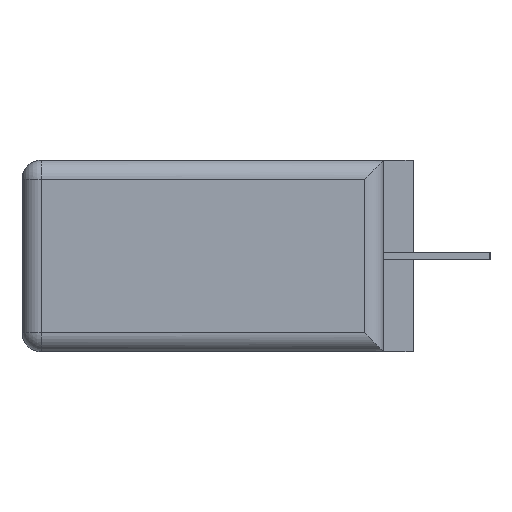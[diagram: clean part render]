
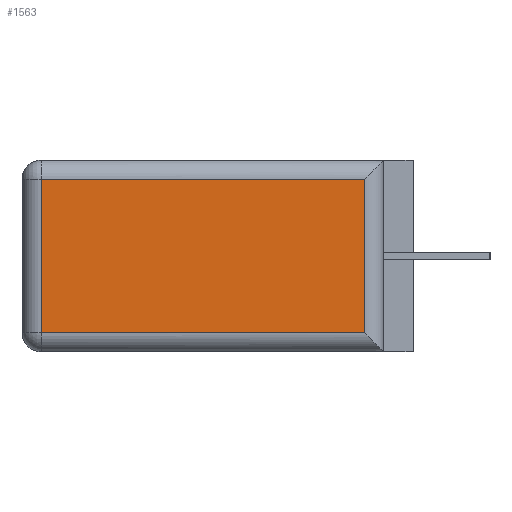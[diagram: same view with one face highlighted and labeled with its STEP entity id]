
A CAD part, left-side view. The second image highlights one B-rep face of the part: STEP entity #1563.
In plain terms, the highlighted planar face has unit normal (-1, 0, 0).
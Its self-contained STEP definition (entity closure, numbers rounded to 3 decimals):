
#1524 = CARTESIAN_POINT ( 'NONE',  ( -9.845, 4.83, -0.995 ) ) ;
#1525 = VERTEX_POINT ( 'NONE', #1524 ) ;
#1526 = CARTESIAN_POINT ( 'NONE',  ( -9.845, 0.631, -0.995 ) ) ;
#1527 = VERTEX_POINT ( 'NONE', #1526 ) ;
#1528 = CARTESIAN_POINT ( 'NONE',  ( -9.845, 0.381, -0.995 ) ) ;
#1529 = DIRECTION ( 'NONE',  ( 0., -1., 0. ) ) ;
#1530 = VECTOR ( 'NONE', #1529, 1000. ) ;
#1531 = LINE ( 'NONE', #1528, #1530 ) ;
#1532 = EDGE_CURVE ( 'NONE', #1525, #1527, #1531, .T. ) ;
#1533 = ORIENTED_EDGE ( 'NONE', *, *, #1532, .T. ) ;
#1534 = CARTESIAN_POINT ( 'NONE',  ( -9.845, 0.631, 0.995 ) ) ;
#1535 = VERTEX_POINT ( 'NONE', #1534 ) ;
#1536 = CARTESIAN_POINT ( 'NONE',  ( -9.845, 0.631, -1.245 ) ) ;
#1537 = DIRECTION ( 'NONE',  ( 0., 0., 1. ) ) ;
#1538 = VECTOR ( 'NONE', #1537, 1000. ) ;
#1539 = LINE ( 'NONE', #1536, #1538 ) ;
#1540 = EDGE_CURVE ( 'NONE', #1527, #1535, #1539, .T. ) ;
#1541 = ORIENTED_EDGE ( 'NONE', *, *, #1540, .T. ) ;
#1542 = CARTESIAN_POINT ( 'NONE',  ( -9.845, 4.83, 0.995 ) ) ;
#1543 = VERTEX_POINT ( 'NONE', #1542 ) ;
#1544 = CARTESIAN_POINT ( 'NONE',  ( -9.845, 5.08, 0.995 ) ) ;
#1545 = DIRECTION ( 'NONE',  ( 0., 1., 0. ) ) ;
#1546 = VECTOR ( 'NONE', #1545, 1000. ) ;
#1547 = LINE ( 'NONE', #1544, #1546 ) ;
#1548 = EDGE_CURVE ( 'NONE', #1535, #1543, #1547, .T. ) ;
#1549 = ORIENTED_EDGE ( 'NONE', *, *, #1548, .T. ) ;
#1550 = CARTESIAN_POINT ( 'NONE',  ( -9.845, 4.83, -1.245 ) ) ;
#1551 = DIRECTION ( 'NONE',  ( 0., 0., -1. ) ) ;
#1552 = VECTOR ( 'NONE', #1551, 1000. ) ;
#1553 = LINE ( 'NONE', #1550, #1552 ) ;
#1554 = EDGE_CURVE ( 'NONE', #1543, #1525, #1553, .T. ) ;
#1555 = ORIENTED_EDGE ( 'NONE', *, *, #1554, .T. ) ;
#1556 = EDGE_LOOP ( 'NONE', ( #1533, #1541, #1549, #1555 ) ) ;
#1557 = FACE_OUTER_BOUND ( 'NONE', #1556, .T. ) ;
#1558 = CARTESIAN_POINT ( 'NONE',  ( -9.845, 5.08, -1.245 ) ) ;
#1559 = DIRECTION ( 'NONE',  ( 1., 0., 0. ) ) ;
#1560 = DIRECTION ( 'NONE',  ( 0., 0., -1. ) ) ;
#1561 = AXIS2_PLACEMENT_3D ( 'NONE', #1558, #1559, #1560 ) ;
#1562 = PLANE ( 'NONE', #1561 ) ;
#1563 = ADVANCED_FACE ( 'NONE', ( #1557 ), #1562, .F. ) ;
